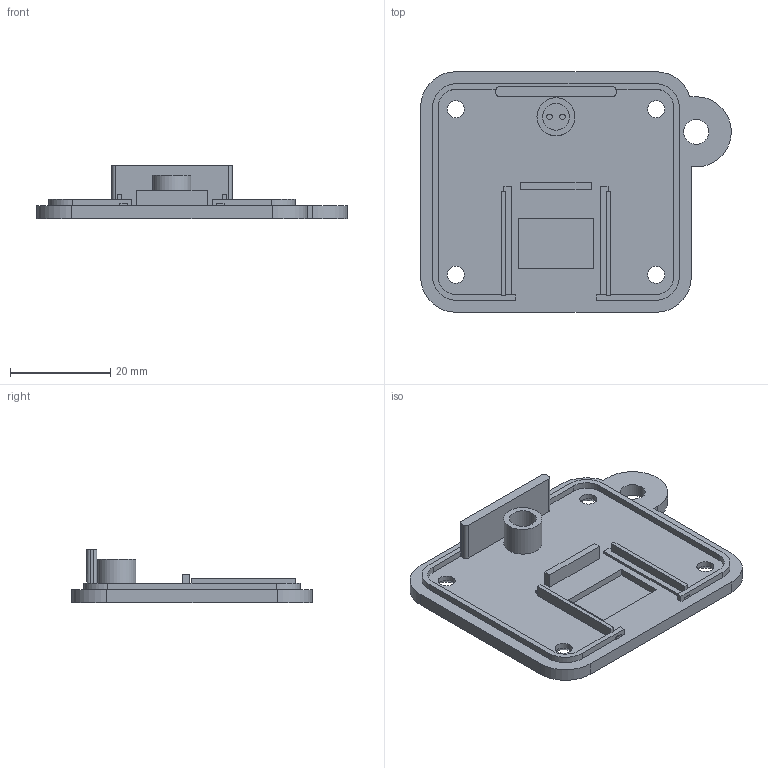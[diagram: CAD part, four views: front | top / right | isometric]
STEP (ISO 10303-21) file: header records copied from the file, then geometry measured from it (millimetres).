
FILE_DESCRIPTION(('Open CASCADE Model'),'2;1');
FILE_NAME('Open CASCADE Shape Model','2026-09-17T20:02:03',('Author'),( 'Open CASCADE'),'Open CASCADE STEP processor 7.7','Open CASCADE 7.7' ,'Unknown');
FILE_SCHEMA(('AUTOMOTIVE_DESIGN { 1 0 10303 214 1 1 1 1 }'));
Length unit declared in the file: millimetre
Products named in the file (1): Open CASCADE STEP translator 7.7 2
Bounding box: 62 x 48 x 10.6 mm (x, y, z)
Volume: 7314.3 mm3; surface area: 7226.2 mm2
Topology: 1 solids, 1 shells, 109 faces, 290 edges, 192 vertices
Faces by surface type: plane 79, cylinder 26, cone 4
Full cylindrical faces by diameter (mm): 1.1 x2, 3.4 x4, 5 x1, 5.35 x1, 7.6 x1
Entity records: 7104 total; most frequent: CARTESIAN_POINT 1400, DIRECTION 1010, LINE 638, VECTOR 638, ORIENTED_EDGE 580, PCURVE 580, DEFINITIONAL_REPRESENTATION 580, EDGE_CURVE 290
